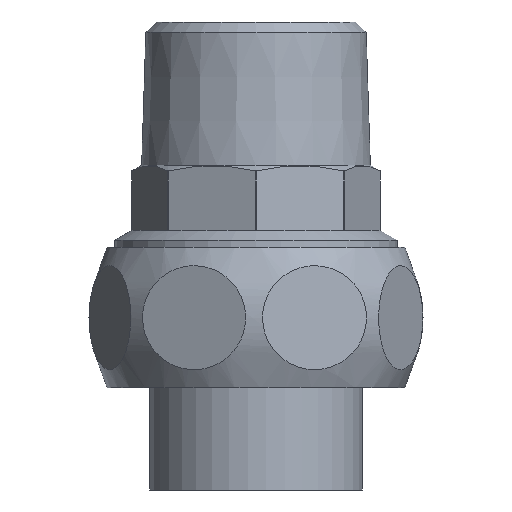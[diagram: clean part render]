
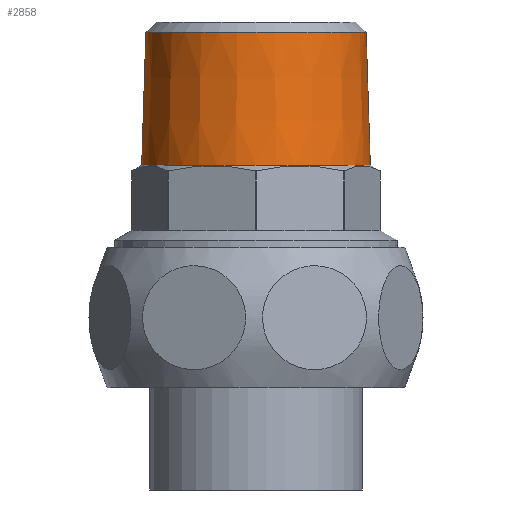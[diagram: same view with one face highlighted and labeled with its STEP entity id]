
A CAD part, left-side view. The second image highlights one B-rep face of the part: STEP entity #2858.
In plain terms, the highlighted conical face has half-angle 1.79 degrees and reference radius 13.172 mm.
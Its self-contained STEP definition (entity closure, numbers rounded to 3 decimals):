
#2827=CARTESIAN_POINT('',(-1.493,12.946,0.));
#2828=VERTEX_POINT('',#2827);
#2829=CARTESIAN_POINT('',(-1.493,0.,0.));
#2830=DIRECTION('',(-1.0,0.0,0.0));
#2831=DIRECTION('',(0.0,-1.0,0.0));
#2832=AXIS2_PLACEMENT_3D('',#2829,#2830,#2831);
#2833=CIRCLE('',#2832,12.946);
#2834=EDGE_CURVE('',#2828,#2828,#2833,.T.);
#2839=CARTESIAN_POINT('',(5.721,0.,0.0));
#2840=DIRECTION('',(1.0,0.,0.0));
#2841=DIRECTION('',(0.0,1.0,0.0));
#2842=AXIS2_PLACEMENT_3D('',#2839,#2840,#2841);
#2843=CONICAL_SURFACE('',#2842,13.172,1.79);
#2844=CARTESIAN_POINT('',(14.135,13.434,0.0));
#2845=VERTEX_POINT('',#2844);
#2846=CARTESIAN_POINT('',(14.135,0.,0.0));
#2847=DIRECTION('',(1.0,0.0,0.0));
#2848=DIRECTION('',(0.0,1.0,0.0));
#2849=AXIS2_PLACEMENT_3D('',#2846,#2847,#2848);
#2850=CIRCLE('',#2849,13.434);
#2851=EDGE_CURVE('',#2845,#2845,#2850,.T.);
#2852=ORIENTED_EDGE('',*,*,#2851,.F.);
#2853=EDGE_LOOP('',(#2852));
#2854=FACE_OUTER_BOUND('',#2853,.T.);
#2855=ORIENTED_EDGE('',*,*,#2834,.F.);
#2856=EDGE_LOOP('',(#2855));
#2857=FACE_BOUND('',#2856,.T.);
#2858=ADVANCED_FACE('',(#2854,#2857),#2843,.T.);
